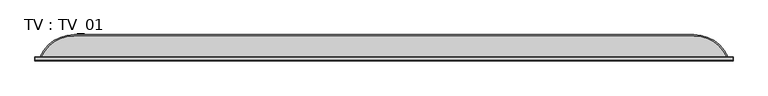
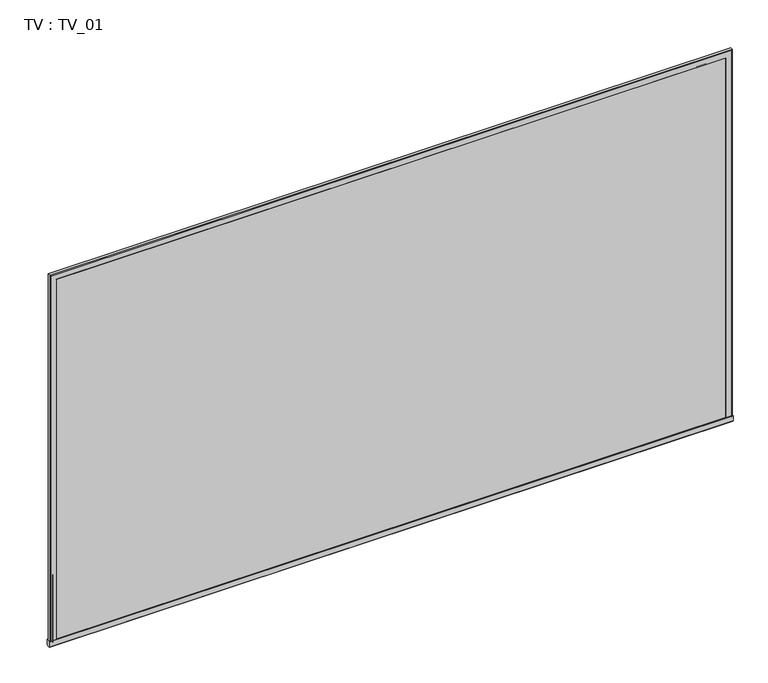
"""IFC4 building model written with IfcOpenShell, lengths in millimetres: proxy geometry, TV : TV_01."""

import ifcopenshell
import ifcopenshell.guid

model = None  # the IFC model being written
_history = None  # IfcOwnerHistory: only IFC2X3 demands one
_inside = {}  # id of a spatial element -> (the spatial element, [elements in it])
_under = {}  # id of a project, library or spatial element -> (it, [spatial elements below it])
_declared = {}  # id of a project -> (the project, [libraries it declares])
_typed = {}  # id of a type object -> (the type object, [elements of that type])
_made_of = {}  # id of a material, layer set ... -> (it, [elements and type objects made of it])


def new_model(schema):
    """Start an empty IFC model of exactly this schema.

    Asked for "IFC4X3", IfcOpenShell would pick the latest addendum, in which some entities
    have other attributes; the version numbers below select the first issue.
    IFC2X3 requires an IfcOwnerHistory on every rooted entity: one is made here for all.
    """
    global model, _history
    if schema == "IFC4X3":
        model = ifcopenshell.file(schema_version=(4, 3, 0, 0))
    else:
        model = ifcopenshell.file(schema=schema)
    _inside.clear()
    _under.clear()
    _declared.clear()
    _typed.clear()
    _made_of.clear()
    _history = None
    if model.schema == "IFC2X3":
        org = make("IfcOrganization", Name="unknown")
        user = make(
            "IfcPersonAndOrganization",
            ThePerson=make("IfcPerson", FamilyName="unknown"),
            TheOrganization=org,
        )
        app = make(
            "IfcApplication",
            ApplicationDeveloper=org,
            Version="unknown",
            ApplicationFullName="unknown",
            ApplicationIdentifier="unknown",
        )
        _history = make(
            "IfcOwnerHistory",
            OwningUser=user,
            OwningApplication=app,
            ChangeAction="ADDED",
            CreationDate=0,
        )
    return model


def make(cls, **values):
    """One entity of the class cls with the attributes given. An attribute that is None is left unset."""
    return model.create_entity(
        cls, **{name: value for name, value in values.items() if value is not None}
    )


def rooted(cls, **values):
    """An entity with a GlobalId (a new one), such as an element, a storey or a relation."""
    return make(cls, GlobalId=ifcopenshell.guid.new(), OwnerHistory=_history, **values)


def si_unit(unit_type, name, prefix=None):
    """IfcSIUnit, for example si_unit("LENGTHUNIT", "METRE", prefix="MILLI")."""
    return make("IfcSIUnit", UnitType=unit_type, Prefix=prefix, Name=name)


def assignment(units):
    """IfcUnitAssignment: the units of a project."""
    return None if units is None else make("IfcUnitAssignment", Units=units)


def point(xyz):
    """IfcCartesianPoint."""
    return None if xyz is None else make("IfcCartesianPoint", Coordinates=xyz)


def direction(xyz):
    """IfcDirection."""
    return None if xyz is None else make("IfcDirection", DirectionRatios=xyz)


def frame(location, z_axis=None, x_axis=None):
    """IfcAxis2Placement3D, a coordinate frame: its origin and axes. An axis left out is left unset."""
    return make(
        "IfcAxis2Placement3D",
        Location=point(location),
        Axis=direction(z_axis),
        RefDirection=direction(x_axis),
    )


def frame_2d(location, x_axis=None):
    """IfcAxis2Placement2D, a coordinate frame in the plane: its origin and x axis."""
    return make(
        "IfcAxis2Placement2D", Location=point(location), RefDirection=direction(x_axis)
    )


def origin():
    """The frame at (0, 0, 0) with its axes left unset."""
    return frame((0.0, 0.0, 0.0))


def place(relative_to, where):
    """IfcLocalPlacement: puts the frame where relative to a parent placement (None: the world)."""
    return make(
        "IfcLocalPlacement", PlacementRelTo=relative_to, RelativePlacement=where
    )


def context(
    kind, dimensions, precision=None, world=None, true_north=None, identifier=None
):
    """IfcGeometricRepresentationContext, for example the 3D "Model" context."""
    return make(
        "IfcGeometricRepresentationContext",
        ContextIdentifier=identifier,
        ContextType=kind,
        CoordinateSpaceDimension=dimensions,
        Precision=precision,
        WorldCoordinateSystem=world,
        TrueNorth=true_north,
    )


def project(units=None, contexts=None):
    """IfcProject with its units and contexts."""
    return rooted(
        "IfcProject",
        Name="project",
        RepresentationContexts=contexts,
        UnitsInContext=assignment(units),
    )


def spatial(cls, under=None, at=None, **own):
    """A site, building, storey or space (cls), placed at a placement, below another one or the project."""
    s = rooted(cls, ObjectPlacement=at, **own)
    if under is not None:
        _under.setdefault(under.id(), (under, []))[1].append(s)
    return s


def polyline(points):
    """IfcPolyline through the points."""
    return make("IfcPolyline", Points=[point(p) for p in points])


def circle_curve(where, radius):
    """IfcCircle in the frame where."""
    return make("IfcCircle", Position=where, Radius=radius)


def ellipse_curve(where, semi_axis1, semi_axis2):
    """IfcEllipse in the frame where."""
    return make(
        "IfcEllipse", Position=where, SemiAxis1=semi_axis1, SemiAxis2=semi_axis2
    )


def trimmed(basis, trim1, trim2, sense, master):
    """IfcTrimmedCurve: the piece of a basis curve between two trims."""
    return make(
        "IfcTrimmedCurve",
        BasisCurve=basis,
        Trim1=trim1,
        Trim2=trim2,
        SenseAgreement=sense,
        MasterRepresentation=master,
    )


def segment(curve, same_sense, transition):
    """IfcCompositeCurveSegment."""
    return make(
        "IfcCompositeCurveSegment",
        Transition=transition,
        SameSense=same_sense,
        ParentCurve=curve,
    )


def composite_curve(segments, self_intersect=None):
    """IfcCompositeCurve: segments joined end to end."""
    return make("IfcCompositeCurve", Segments=segments, SelfIntersect=self_intersect)


def outline(outer, holes=None, kind="AREA"):
    """IfcArbitraryClosedProfileDef: a profile drawn as a closed curve; with holes, ...WithVoids."""
    if holes is None:
        return make("IfcArbitraryClosedProfileDef", ProfileType=kind, OuterCurve=outer)
    return make(
        "IfcArbitraryProfileDefWithVoids",
        ProfileType=kind,
        OuterCurve=outer,
        InnerCurves=holes,
    )


def extrude(swept, where, along, depth):
    """IfcExtrudedAreaSolid: the profile swept, set in the frame where, extruded along a direction by depth."""
    return make(
        "IfcExtrudedAreaSolid",
        SweptArea=swept,
        Position=where,
        ExtrudedDirection=direction(along),
        Depth=depth,
    )


def faces_of(points, faces, orient=None, outer=None):
    """IfcFace entities. A face is a list of loops; a loop is a list of indices into points, from 0.

    orient and outer hold one flag for each loop. By default every Orientation is true, the
    first loop of a face is its IfcFaceOuterBound and the others are IfcFaceBound.
    """
    made = []
    for i, loops in enumerate(faces):
        bounds = []
        for j, loop in enumerate(loops):
            is_outer = j == 0 if outer is None else outer[i][j]
            bounds.append(
                make(
                    "IfcFaceOuterBound" if is_outer else "IfcFaceBound",
                    Bound=make("IfcPolyLoop", Polygon=[points[k] for k in loop]),
                    Orientation=True if orient is None else orient[i][j],
                )
            )
        made.append(make("IfcFace", Bounds=bounds))
    return made


def faceted_brep(points, faces, orient=None, outer=None, voids=None):
    """IfcFacetedBrep: a solid bounded by flat faces; with voids (closed shells), ...WithVoids."""
    shared = [point(p) for p in points]
    hull = make("IfcClosedShell", CfsFaces=faces_of(shared, faces, orient, outer))
    if voids is None:
        return make("IfcFacetedBrep", Outer=hull)
    return make(
        "IfcFacetedBrepWithVoids",
        Outer=hull,
        Voids=[
            make(cls, CfsFaces=faces_of(shared, fs, o, b)) for cls, fs, o, b in voids
        ],
    )


def shape(context_of_items, identifier, shape_type, items):
    """IfcShapeRepresentation: the items that make up one representation, for example the "Body"."""
    return make(
        "IfcShapeRepresentation",
        ContextOfItems=context_of_items,
        RepresentationIdentifier=identifier,
        RepresentationType=shape_type,
        Items=items,
    )


def source(mapping_origin, context_of_items, identifier, shape_type, items):
    """IfcRepresentationMap: a shape defined once, which mapped items show again and again."""
    return make(
        "IfcRepresentationMap",
        MappingOrigin=mapping_origin,
        MappedRepresentation=shape(context_of_items, identifier, shape_type, items),
    )


def transform(
    local_origin,
    x_axis=None,
    y_axis=None,
    z_axis=None,
    scale=None,
    scale2=None,
    scale3=None,
    uniform=True,
):
    """IfcCartesianTransformationOperator3D, or its non-uniform kind. x_axis, y_axis, z_axis: its Axis1, 2, 3."""
    if uniform:
        return make(
            "IfcCartesianTransformationOperator3D",
            Axis1=direction(x_axis),
            Axis2=direction(y_axis),
            LocalOrigin=point(local_origin),
            Scale=scale,
            Axis3=direction(z_axis),
        )
    return make(
        "IfcCartesianTransformationOperator3DnonUniform",
        Axis1=direction(x_axis),
        Axis2=direction(y_axis),
        LocalOrigin=point(local_origin),
        Scale=scale,
        Axis3=direction(z_axis),
        Scale2=scale2,
        Scale3=scale3,
    )


def mapped(mapping_source, mapping_target):
    """IfcMappedItem: shows the shape of a source again, moved by a transform."""
    return make(
        "IfcMappedItem", MappingSource=mapping_source, MappingTarget=mapping_target
    )


def made_of(thing, what):
    """Note that an element or type object is made of a material, layer set ...; save() writes the relation."""
    if what is not None:
        _made_of.setdefault(what.id(), (what, []))[1].append(thing)
    return thing


def element(
    cls,
    number,
    at=None,
    inside=None,
    cuts=None,
    type_object=None,
    material=None,
    context=None,
    identifier="Body",
    shape_type=None,
    held_by="IfcProductDefinitionShape",
    body=None,
    shapes=None,
    **own,
):
    """One element of the class cls, such as IfcWall. Its Tag is "e" and its number.

    at: its placement. inside: the storey or other place that contains it. cuts: it is an
    opening in that element (IfcRelVoidsElement). A single representation is given by context,
    identifier, shape_type and body (its items); several are given by shapes. held_by: the class
    of the entity that holds the representations. save() writes the other relations.
    """
    e = rooted(cls, Tag="e%d" % number, ObjectPlacement=at, **own)
    if body is not None:
        shapes = [shape(context, identifier, shape_type, body)]
    if shapes is not None:
        e.Representation = make(held_by, Representations=shapes)
    if inside is not None:
        _inside.setdefault(inside.id(), (inside, []))[1].append(e)
    if cuts is not None:
        rooted(
            "IfcRelVoidsElement", RelatingBuildingElement=cuts, RelatedOpeningElement=e
        )
    if type_object is not None:
        _typed.setdefault(type_object.id(), (type_object, []))[1].append(e)
    return made_of(e, material)


def aggregate(whole, parts):
    """IfcRelAggregates: a whole, such as a stair, and the parts it consists of."""
    return rooted("IfcRelAggregates", RelatingObject=whole, RelatedObjects=parts)


def save(model, path):
    """Write the relations noted so far, then the file.

    IfcRelAggregates (storeys below a building ...), IfcRelContainedInSpatialStructure (elements
    in a storey), IfcRelDefinesByType, IfcRelAssociatesMaterial and IfcRelDeclares: one each for
    every whole, place, type object, material and project.
    """
    for whole, parts in _under.values():
        aggregate(whole, parts)
    for where, things in _inside.values():
        rooted(
            "IfcRelContainedInSpatialStructure",
            RelatedElements=things,
            RelatingStructure=where,
        )
    for kind, things in _typed.values():
        rooted("IfcRelDefinesByType", RelatedObjects=things, RelatingType=kind)
    for what, things in _made_of.values():
        rooted("IfcRelAssociatesMaterial", RelatedObjects=things, RelatingMaterial=what)
    for by, libraries in _declared.values():
        rooted("IfcRelDeclares", RelatingContext=by, RelatedDefinitions=libraries)
    model.write(path)


def plane_surface(at):
    """IfcPlane: the flat surface through the origin of the frame at, square to its z axis."""
    return make("IfcPlane", Position=at)


def cylinder_surface(at, radius):
    """IfcCylindricalSurface: all points at the distance radius from the z axis of the frame at."""
    return make("IfcCylindricalSurface", Position=at, Radius=radius)


def advanced_brep(points, edges, surfaces, faces):
    """IfcAdvancedBrep: a solid bounded by faces that lie on surfaces and meet in shared edges.

    An edge is (start, end): straight between two places in points (the first is 0);
    or (start, end, curve); or (start, end, curve, False) where it runs against its curve.
    A face is (place in surfaces, loops), or (place, loops, False) where it looks against
    its surface's normal. A loop lists edges by number (the first is 1), with a minus sign
    where the edge is run from its end to its start. The first loop is the outer one.
    """
    corners = [point(p) for p in points]
    vertices = [make("IfcVertexPoint", VertexGeometry=c) for c in corners]
    made = []
    for start, end, *more in edges:
        made.append(
            make(
                "IfcEdgeCurve",
                EdgeStart=vertices[start],
                EdgeEnd=vertices[end],
                EdgeGeometry=more[0] if more else make("IfcPolyline", Points=[corners[start], corners[end]]),
                SameSense=more[1] if len(more) > 1 else True,
            )
        )
    hull = []
    for where, loops, *sense in faces:
        bounds = []
        for j, loop in enumerate(loops):
            ring = [make("IfcOrientedEdge", EdgeElement=made[abs(k) - 1], Orientation=k > 0) for k in loop]
            bounds.append(
                make(
                    "IfcFaceOuterBound" if j == 0 else "IfcFaceBound",
                    Bound=make("IfcEdgeLoop", EdgeList=ring),
                    Orientation=True,
                )
            )
        hull.append(make("IfcAdvancedFace", Bounds=bounds, FaceSurface=surfaces[where], SameSense=sense[0] if sense else True))
    return make("IfcAdvancedBrep", Outer=make("IfcClosedShell", CfsFaces=hull))


def tv_tv_01_4ea46285(model_context):
    return source(origin(), model_context, "Body", "SolidModel", [
        extrude(outline(polyline([(939.500157, -68.8122892), (939.500157, -69.8298125), (-939.500157, -69.8298125), (-939.500157, -68.8122892), (939.500157, -68.8122892)])), frame((0.0, 0.0, 1117.5001526), z_axis=(0.0, 0.0, 1.0), x_axis=(1.0, 0.0, 0.0)), (0.0, 0.0, 1.0), 1066.7291244),
        faceted_brep([(-955.000002, -69.8298125, 1115.0), (-955.000002, -62.82908, 1115.0), (-953.5001392, -61.3294461, 1115.0), (-937.6219429, -61.3294455, 1115.0), (-936.9999705, -61.9514177, 1115.0), (-936.9999705, -70.7074748, 1115.0), (-937.6219412, -71.3294455, 1115.0), (-953.5001392, -71.3294461, 1115.0), (-955.000002, -69.8298125, 2199.9999232), (-955.000002, -62.82908, 2199.9999232), (-953.5001392, -61.3294461, 2198.5000604), (953.5001352, -61.3293695, 2198.5000604), (953.5001352, -61.3293695, 1115.0), (937.6219388, -61.3293701, 1115.0), (937.6219388, -61.3293701, 2182.621864), (-937.6219429, -61.3294455, 2182.621864), (-936.9999705, -61.9514177, 2181.9998916), (-936.9999705, -70.7074748, 2181.9998916), (-937.6219412, -71.3294455, 2182.6218624), (937.6219372, -71.3293701, 2182.6218624), (937.6219372, -71.3293701, 1115.0), (953.5001352, -71.3293695, 1115.0), (953.5001352, -71.3293695, 2198.5000604), (-953.5001392, -71.3294461, 2198.5000604), (954.999998, -69.8298125, 2199.9999232), (954.999998, -62.82908, 2199.9999232), (936.9999665, -61.9514177, 2181.9998916), (936.9999665, -70.7074748, 2181.9998916), (954.999998, -69.8298125, 1115.0), (936.9999665, -70.7074748, 1115.0), (936.9999665, -61.9514177, 1115.0), (954.999998, -62.82908, 1115.0)], [[[0, 1, 2, 3, 4, 5, 6, 7]], [[1, 0, 8, 9]], [[2, 1, 9, 10]], [[3, 2, 10, 11, 12, 13, 14, 15]], [[4, 3, 15, 16]], [[5, 4, 16, 17]], [[6, 5, 17, 18]], [[7, 6, 18, 19, 20, 21, 22, 23]], [[0, 7, 23, 8]], [[9, 8, 24, 25]], [[10, 9, 25, 11]], [[16, 15, 14, 26]], [[17, 16, 26, 27]], [[18, 17, 27, 19]], [[8, 23, 22, 24]], [[28, 21, 20, 29, 30, 13, 12, 31]], [[25, 24, 28, 31]], [[11, 25, 31, 12]], [[26, 14, 13, 30]], [[27, 26, 30, 29]], [[19, 27, 29, 20]], [[24, 22, 21, 28]]]),
        extrude(outline(polyline([(-61.9971347, 1100.0), (-70.6610751, 1100.0), (-72.3291659, 1101.668396), (-72.3291659, 1117.4054483), (-71.7344311, 1118.0001831), (-60.9237787, 1118.0001831), (-60.328989, 1117.4053934), (-60.328989, 1101.6684508), (-61.9971347, 1100.0)])), frame((-956.000157, 0.0, 0.0), z_axis=(1.0, 0.0, 0.0), x_axis=(0.0, 1.0, 0.0)), (0.0, 0.0, 1.0), 1911.9998333),
        advanced_brep(
        [(848.6825148, -3.584679, 1290.5046082), (936.6681782, -60.3290939, 1290.5046082), (-936.8363266, -60.3290939, 1290.5046082), (-848.8506632, -3.584679, 1290.5046082), (848.6825148, -3.584679, 2094.3709837), (936.6681782, -60.3290939, 2182.3566471), (-936.8363266, -60.3290939, 2182.3566471), (-848.8506632, -3.584679, 2094.3709837)],
        [
            (0, 1, circle_curve(frame((849.3976775, -99.0615421, 1290.5046082), z_axis=(0.0, 0.0, -1.0), x_axis=(-1.0, 0.0, 0.0)), 95.4795415)),
            (1, 2),
            (2, 3, circle_curve(frame((-849.5658259, -99.0615421, 1290.5046082), z_axis=(0.0, 0.0, -1.0), x_axis=(1.0, 0.0, 0.0)), 95.4795415)),
            (3, 0),
            (0, 4),
            (4, 5, ellipse_curve(frame((849.3976775, -99.0615421, 2095.0861464), z_axis=(0.7071067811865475, 0.0, -0.7071067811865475), x_axis=(-0.7071067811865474, 0.0, -0.7071067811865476)), 135.0284625, 95.4795415)),
            (5, 1),
            (5, 6),
            (6, 2),
            (6, 7, ellipse_curve(frame((-849.5658259, -99.0615421, 2095.0861464), z_axis=(-0.7071067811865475, 0.0, -0.7071067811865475), x_axis=(-0.7071067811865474, 0.0, 0.7071067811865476)), 135.0284625, 95.4795415)),
            (7, 3),
            (4, 7),
        ],
        [
            plane_surface(frame((848.6825148, 0.0, 1290.5046082), z_axis=(0.0, 0.0, -1.0), x_axis=(0.0, -1.0, 0.0))),
            cylinder_surface(frame((849.3976775, -99.0615421, 1290.5046082), z_axis=(0.0, 0.0, -1.0), x_axis=(-1.0, 0.0, 0.0)), 95.4795415),
            plane_surface(frame((936.6681782, -60.3290939, 1290.5046082), z_axis=(0.0, -1.0, 0.0), x_axis=(0.0, 0.0, 1.0))),
            cylinder_surface(frame((-849.5658259, -99.0615421, 2094.3709837), z_axis=(0.0, 0.0, 1.0), x_axis=(1.0, 0.0, 0.0)), 95.4795415),
            cylinder_surface(frame((848.6825148, -99.0615421, 2095.0861464), z_axis=(1.0, 0.0, 0.0), x_axis=(0.0, 0.0, -1.0)), 95.4795415),
            plane_surface(frame((-848.8506632, -3.584679, 2094.3709837), z_axis=(0.0, 1.0, 0.0), x_axis=(0.0, 0.0, 1.0))),
        ],
        [
            (0, [[1, 2, 3, 4]]),
            (1, [[-1, 5, 6, 7]]),
            (2, [[-2, -7, 8, 9]]),
            (3, [[-9, 10, 11, -3]]),
            (4, [[-6, 12, -10, -8]]),
            (5, [[-4, -11, -12, -5]]),
        ],
    ),
        extrude(outline(composite_curve([segment(polyline([(-848.8506632, 0.0), (848.8564355, 0.0)]), True, "CONTINUOUS"), segment(trimmed(circle_curve(frame_2d((848.8564355, -100.8954296)), 100.8954296), [point((848.8564355, 0.0))], [point((941.2374488, -60.328989))], False, "CARTESIAN"), True, "CONTINUOUS"), segment(polyline([(941.2374488, -60.328989), (-941.2372269, -60.328989)]), True, "CONTINUOUS"), segment(trimmed(circle_curve(frame_2d((-848.8506632, -100.903929)), 100.903929), [point((-941.2372269, -60.328989))], [point((-848.8506632, 0.0))], False, "CARTESIAN"), True, "CONTINUOUS")], self_intersect=False)), frame((0.0, 0.0, 1103.8372803), z_axis=(0.0, 0.0, 1.0), x_axis=(1.0, 0.0, 0.0)), (0.0, 0.0, 1.0), 186.6673279),
    ])


if __name__ == "__main__":
    model = new_model("IFC4")
    model_context = context("Model", 3, world=origin())
    ifc_project = project(units=[si_unit("LENGTHUNIT", "METRE", prefix="MILLI")], contexts=[model_context])
    site = spatial("IfcSite", under=ifc_project)
    building = spatial("IfcBuilding", under=site)
    placement = place(None, origin())
    tv_tv_01_shape = tv_tv_01_4ea46285(model_context)
    element("IfcBuildingElementProxy", 1, Name="TV : TV_01", ObjectType="TV : TV_01", at=placement, inside=building, context=model_context, shape_type="MappedRepresentation", body=[
        mapped(tv_tv_01_shape, transform((0.0, 0.0, 0.0), x_axis=(1.0, 0.0, 0.0), y_axis=(0.0, 1.0, 0.0), z_axis=(0.0, 0.0, 1.0))),
    ])
    save(model, "model.ifc")
